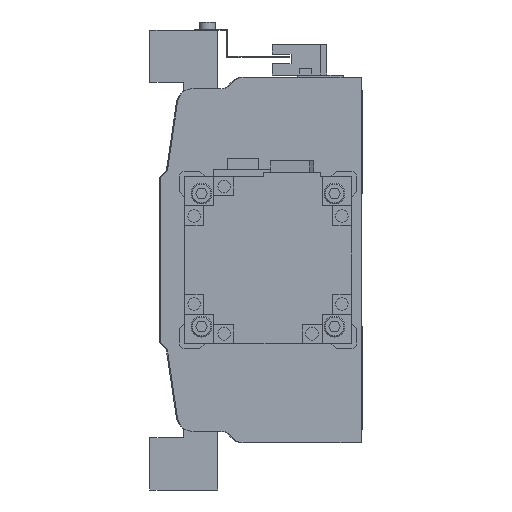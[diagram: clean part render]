
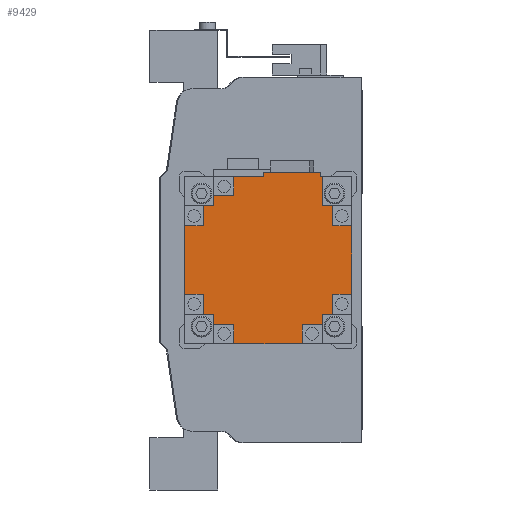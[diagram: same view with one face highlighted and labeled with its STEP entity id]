
A CAD part, left-side view. The second image highlights one B-rep face of the part: STEP entity #9429.
In plain terms, the highlighted planar face has unit normal (-1, 0, 0) as drawn and (0, 1, 0) by its records, which use the part's own axes.
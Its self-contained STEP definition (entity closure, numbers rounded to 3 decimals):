
#152=PLANE('',#10106);
#658=LINE('',#13970,#1709);
#667=LINE('',#13990,#1718);
#673=LINE('',#14002,#1724);
#676=LINE('',#14008,#1727);
#677=LINE('',#14011,#1728);
#678=LINE('',#14013,#1729);
#679=LINE('',#14015,#1730);
#680=LINE('',#14017,#1731);
#681=LINE('',#14019,#1732);
#682=LINE('',#14021,#1733);
#683=LINE('',#14023,#1734);
#684=LINE('',#14025,#1735);
#685=LINE('',#14027,#1736);
#686=LINE('',#14029,#1737);
#687=LINE('',#14031,#1738);
#688=LINE('',#14033,#1739);
#689=LINE('',#14035,#1740);
#690=LINE('',#14037,#1741);
#691=LINE('',#14039,#1742);
#692=LINE('',#14041,#1743);
#693=LINE('',#14043,#1744);
#694=LINE('',#14045,#1745);
#695=LINE('',#14047,#1746);
#696=LINE('',#14049,#1747);
#697=LINE('',#14050,#1748);
#698=LINE('',#14051,#1749);
#699=LINE('',#14052,#1750);
#700=LINE('',#14054,#1751);
#701=LINE('',#14056,#1752);
#702=LINE('',#14058,#1753);
#1709=VECTOR('',#11245,1000.);
#1718=VECTOR('',#11256,1000.);
#1724=VECTOR('',#11262,1000.);
#1727=VECTOR('',#11267,1000.);
#1728=VECTOR('',#11268,1000.);
#1729=VECTOR('',#11269,1000.);
#1730=VECTOR('',#11270,1000.);
#1731=VECTOR('',#11271,1000.);
#1732=VECTOR('',#11272,1000.);
#1733=VECTOR('',#11273,1000.);
#1734=VECTOR('',#11274,1000.);
#1735=VECTOR('',#11275,1000.);
#1736=VECTOR('',#11276,1000.);
#1737=VECTOR('',#11277,1000.);
#1738=VECTOR('',#11278,1000.);
#1739=VECTOR('',#11279,1000.);
#1740=VECTOR('',#11280,1000.);
#1741=VECTOR('',#11281,1000.);
#1742=VECTOR('',#11282,1000.);
#1743=VECTOR('',#11283,1000.);
#1744=VECTOR('',#11284,1000.);
#1745=VECTOR('',#11285,1000.);
#1746=VECTOR('',#11286,1000.);
#1747=VECTOR('',#11287,1000.);
#1748=VECTOR('',#11288,1000.);
#1749=VECTOR('',#11289,1000.);
#1750=VECTOR('',#11290,1000.);
#1751=VECTOR('',#11291,1000.);
#1752=VECTOR('',#11292,1000.);
#1753=VECTOR('',#11293,1000.);
#3047=ORIENTED_EDGE('',*,*,#5502,.T.);
#3048=ORIENTED_EDGE('',*,*,#5503,.T.);
#3049=ORIENTED_EDGE('',*,*,#5504,.T.);
#3050=ORIENTED_EDGE('',*,*,#5505,.T.);
#3051=ORIENTED_EDGE('',*,*,#5506,.T.);
#3052=ORIENTED_EDGE('',*,*,#5507,.F.);
#3053=ORIENTED_EDGE('',*,*,#5508,.F.);
#3054=ORIENTED_EDGE('',*,*,#5509,.T.);
#3055=ORIENTED_EDGE('',*,*,#5510,.T.);
#3056=ORIENTED_EDGE('',*,*,#5511,.T.);
#3057=ORIENTED_EDGE('',*,*,#5512,.T.);
#3058=ORIENTED_EDGE('',*,*,#5513,.T.);
#3059=ORIENTED_EDGE('',*,*,#5514,.F.);
#3060=ORIENTED_EDGE('',*,*,#5515,.F.);
#3061=ORIENTED_EDGE('',*,*,#5516,.T.);
#3062=ORIENTED_EDGE('',*,*,#5517,.T.);
#3063=ORIENTED_EDGE('',*,*,#5518,.T.);
#3064=ORIENTED_EDGE('',*,*,#5519,.T.);
#3065=ORIENTED_EDGE('',*,*,#5520,.T.);
#3066=ORIENTED_EDGE('',*,*,#5521,.F.);
#3067=ORIENTED_EDGE('',*,*,#5522,.F.);
#3068=ORIENTED_EDGE('',*,*,#5493,.T.);
#3069=ORIENTED_EDGE('',*,*,#5523,.F.);
#3070=ORIENTED_EDGE('',*,*,#5484,.F.);
#3071=ORIENTED_EDGE('',*,*,#5524,.T.);
#3072=ORIENTED_EDGE('',*,*,#5499,.T.);
#3073=ORIENTED_EDGE('',*,*,#5525,.T.);
#3074=ORIENTED_EDGE('',*,*,#5526,.T.);
#3075=ORIENTED_EDGE('',*,*,#5527,.F.);
#3076=ORIENTED_EDGE('',*,*,#5528,.F.);
#5484=EDGE_CURVE('',#6752,#6753,#658,.T.);
#5493=EDGE_CURVE('',#6762,#6760,#667,.T.);
#5499=EDGE_CURVE('',#6768,#6767,#673,.T.);
#5502=EDGE_CURVE('',#6770,#6771,#676,.T.);
#5503=EDGE_CURVE('',#6771,#6772,#677,.T.);
#5504=EDGE_CURVE('',#6772,#6773,#678,.T.);
#5505=EDGE_CURVE('',#6773,#6774,#679,.T.);
#5506=EDGE_CURVE('',#6774,#6775,#680,.T.);
#5507=EDGE_CURVE('',#6776,#6775,#681,.T.);
#5508=EDGE_CURVE('',#6777,#6776,#682,.T.);
#5509=EDGE_CURVE('',#6777,#6778,#683,.T.);
#5510=EDGE_CURVE('',#6778,#6779,#684,.T.);
#5511=EDGE_CURVE('',#6779,#6780,#685,.T.);
#5512=EDGE_CURVE('',#6780,#6781,#686,.T.);
#5513=EDGE_CURVE('',#6781,#6782,#687,.T.);
#5514=EDGE_CURVE('',#6783,#6782,#688,.T.);
#5515=EDGE_CURVE('',#6784,#6783,#689,.T.);
#5516=EDGE_CURVE('',#6784,#6785,#690,.T.);
#5517=EDGE_CURVE('',#6785,#6786,#691,.T.);
#5518=EDGE_CURVE('',#6786,#6787,#692,.T.);
#5519=EDGE_CURVE('',#6787,#6788,#693,.T.);
#5520=EDGE_CURVE('',#6788,#6789,#694,.T.);
#5521=EDGE_CURVE('',#6790,#6789,#695,.T.);
#5522=EDGE_CURVE('',#6762,#6790,#696,.T.);
#5523=EDGE_CURVE('',#6753,#6760,#697,.T.);
#5524=EDGE_CURVE('',#6752,#6768,#698,.T.);
#5525=EDGE_CURVE('',#6767,#6791,#699,.T.);
#5526=EDGE_CURVE('',#6791,#6792,#700,.T.);
#5527=EDGE_CURVE('',#6793,#6792,#701,.T.);
#5528=EDGE_CURVE('',#6770,#6793,#702,.T.);
#6752=VERTEX_POINT('',#13971);
#6753=VERTEX_POINT('',#13972);
#6760=VERTEX_POINT('',#13988);
#6762=VERTEX_POINT('',#13991);
#6767=VERTEX_POINT('',#14001);
#6768=VERTEX_POINT('',#14003);
#6770=VERTEX_POINT('',#14009);
#6771=VERTEX_POINT('',#14010);
#6772=VERTEX_POINT('',#14012);
#6773=VERTEX_POINT('',#14014);
#6774=VERTEX_POINT('',#14016);
#6775=VERTEX_POINT('',#14018);
#6776=VERTEX_POINT('',#14020);
#6777=VERTEX_POINT('',#14022);
#6778=VERTEX_POINT('',#14024);
#6779=VERTEX_POINT('',#14026);
#6780=VERTEX_POINT('',#14028);
#6781=VERTEX_POINT('',#14030);
#6782=VERTEX_POINT('',#14032);
#6783=VERTEX_POINT('',#14034);
#6784=VERTEX_POINT('',#14036);
#6785=VERTEX_POINT('',#14038);
#6786=VERTEX_POINT('',#14040);
#6787=VERTEX_POINT('',#14042);
#6788=VERTEX_POINT('',#14044);
#6789=VERTEX_POINT('',#14046);
#6790=VERTEX_POINT('',#14048);
#6791=VERTEX_POINT('',#14053);
#6792=VERTEX_POINT('',#14055);
#6793=VERTEX_POINT('',#14057);
#7901=EDGE_LOOP('',(#3047,#3048,#3049,#3050,#3051,#3052,#3053,#3054,#3055,
#3056,#3057,#3058,#3059,#3060,#3061,#3062,#3063,#3064,#3065,#3066,#3067,
#3068,#3069,#3070,#3071,#3072,#3073,#3074,#3075,#3076));
#8614=FACE_BOUND('',#7901,.T.);
#9429=ADVANCED_FACE('',(#8614),#152,.T.);
#10106=AXIS2_PLACEMENT_3D('',#14007,#11265,#11266);
#11245=DIRECTION('',(0.,0.,1.));
#11256=DIRECTION('',(0.,0.,-1.));
#11262=DIRECTION('',(0.,0.,-1.));
#11265=DIRECTION('',(0.,1.,0.));
#11266=DIRECTION('',(0.,0.,1.));
#11267=DIRECTION('',(-1.,0.,0.));
#11268=DIRECTION('',(0.,0.,-1.));
#11269=DIRECTION('',(-1.,0.,0.));
#11270=DIRECTION('',(0.,0.,1.));
#11271=DIRECTION('',(-1.,0.,0.));
#11272=DIRECTION('',(0.,0.,-1.));
#11273=DIRECTION('',(1.,0.,0.));
#11274=DIRECTION('',(0.,0.,1.));
#11275=DIRECTION('',(-1.,0.,0.));
#11276=DIRECTION('',(0.,0.,1.));
#11277=DIRECTION('',(1.,0.,0.));
#11278=DIRECTION('',(0.,0.,1.));
#11279=DIRECTION('',(-1.,0.,0.));
#11280=DIRECTION('',(0.,0.,-1.));
#11281=DIRECTION('',(1.,0.,0.));
#11282=DIRECTION('',(0.,0.,1.));
#11283=DIRECTION('',(1.,0.,0.));
#11284=DIRECTION('',(0.,0.,-1.));
#11285=DIRECTION('',(1.,0.,0.));
#11286=DIRECTION('',(0.,0.,1.));
#11287=DIRECTION('',(-1.,0.,0.));
#11288=DIRECTION('',(-1.,0.,0.));
#11289=DIRECTION('',(-1.,0.,0.));
#11290=DIRECTION('',(-1.,0.,0.));
#11291=DIRECTION('',(0.,0.,-1.));
#11292=DIRECTION('',(1.,0.,0.));
#11293=DIRECTION('',(0.,0.,1.));
#13970=CARTESIAN_POINT('',(42.,138.3,-2.2));
#13971=CARTESIAN_POINT('',(42.,138.3,-2.2));
#13972=CARTESIAN_POINT('',(42.,138.3,25.2));
#13988=CARTESIAN_POINT('',(39.95,138.3,25.2));
#13990=CARTESIAN_POINT('',(39.95,138.3,39.95));
#13991=CARTESIAN_POINT('',(39.95,138.3,25.95));
#14001=CARTESIAN_POINT('',(39.95,138.3,-16.35));
#14002=CARTESIAN_POINT('',(39.95,138.3,39.95));
#14003=CARTESIAN_POINT('',(39.95,138.3,-2.2));
#14007=CARTESIAN_POINT('',(0.,138.3,0.));
#14008=CARTESIAN_POINT('',(0.,138.3,-30.95));
#14009=CARTESIAN_POINT('',(25.95,138.3,-30.95));
#14010=CARTESIAN_POINT('',(16.35,138.3,-30.95));
#14011=CARTESIAN_POINT('',(16.35,138.3,0.));
#14012=CARTESIAN_POINT('',(16.35,138.3,-39.95));
#14013=CARTESIAN_POINT('',(39.95,138.3,-39.95));
#14014=CARTESIAN_POINT('',(-16.35,138.3,-39.95));
#14015=CARTESIAN_POINT('',(-16.35,138.3,0.));
#14016=CARTESIAN_POINT('',(-16.35,138.3,-30.95));
#14017=CARTESIAN_POINT('',(0.,138.3,-30.95));
#14018=CARTESIAN_POINT('',(-25.95,138.3,-30.95));
#14019=CARTESIAN_POINT('',(-25.95,138.3,0.));
#14020=CARTESIAN_POINT('',(-25.95,138.3,-25.95));
#14021=CARTESIAN_POINT('',(0.,138.3,-25.95));
#14022=CARTESIAN_POINT('',(-30.95,138.3,-25.95));
#14023=CARTESIAN_POINT('',(-30.95,138.3,0.));
#14024=CARTESIAN_POINT('',(-30.95,138.3,-16.35));
#14025=CARTESIAN_POINT('',(0.,138.3,-16.35));
#14026=CARTESIAN_POINT('',(-39.95,138.3,-16.35));
#14027=CARTESIAN_POINT('',(-39.95,138.3,-39.95));
#14028=CARTESIAN_POINT('',(-39.95,138.3,16.35));
#14029=CARTESIAN_POINT('',(0.,138.3,16.35));
#14030=CARTESIAN_POINT('',(-30.95,138.3,16.35));
#14031=CARTESIAN_POINT('',(-30.95,138.3,0.));
#14032=CARTESIAN_POINT('',(-30.95,138.3,25.95));
#14033=CARTESIAN_POINT('',(0.,138.3,25.95));
#14034=CARTESIAN_POINT('',(-25.95,138.3,25.95));
#14035=CARTESIAN_POINT('',(-25.95,138.3,0.));
#14036=CARTESIAN_POINT('',(-25.95,138.3,30.95));
#14037=CARTESIAN_POINT('',(0.,138.3,30.95));
#14038=CARTESIAN_POINT('',(-16.35,138.3,30.95));
#14039=CARTESIAN_POINT('',(-16.35,138.3,0.));
#14040=CARTESIAN_POINT('',(-16.35,138.3,39.95));
#14041=CARTESIAN_POINT('',(-39.95,138.3,39.95));
#14042=CARTESIAN_POINT('',(16.35,138.3,39.95));
#14043=CARTESIAN_POINT('',(16.35,138.3,0.));
#14044=CARTESIAN_POINT('',(16.35,138.3,30.95));
#14045=CARTESIAN_POINT('',(0.,138.3,30.95));
#14046=CARTESIAN_POINT('',(25.95,138.3,30.95));
#14047=CARTESIAN_POINT('',(25.95,138.3,0.));
#14048=CARTESIAN_POINT('',(25.95,138.3,25.95));
#14049=CARTESIAN_POINT('',(0.,138.3,25.95));
#14050=CARTESIAN_POINT('',(42.,138.3,25.2));
#14051=CARTESIAN_POINT('',(42.,138.3,-2.2));
#14052=CARTESIAN_POINT('',(0.,138.3,-16.35));
#14053=CARTESIAN_POINT('',(30.95,138.3,-16.35));
#14054=CARTESIAN_POINT('',(30.95,138.3,0.));
#14055=CARTESIAN_POINT('',(30.95,138.3,-25.95));
#14056=CARTESIAN_POINT('',(0.,138.3,-25.95));
#14057=CARTESIAN_POINT('',(25.95,138.3,-25.95));
#14058=CARTESIAN_POINT('',(25.95,138.3,0.));
